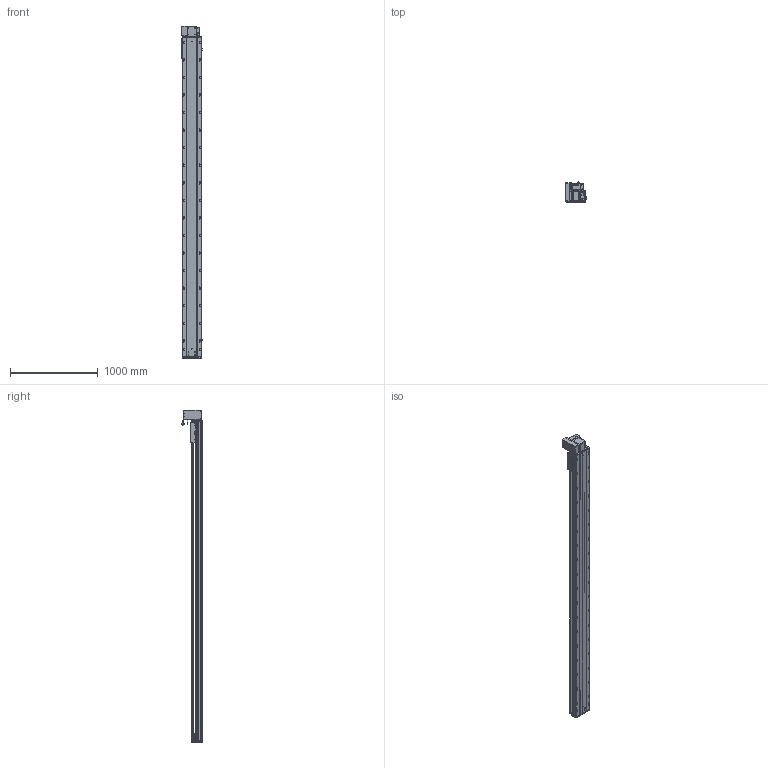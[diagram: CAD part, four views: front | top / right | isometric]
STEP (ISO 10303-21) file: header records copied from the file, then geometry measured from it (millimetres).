
FILE_DESCRIPTION (( 'STEP AP203' ), '1' );
FILE_NAME ('RY220-T-300-UL.SLDASM_3300.step', '2022-07-25T08:36:49', ( '' ), ( '' ), 'SwSTEP 2.0', 'SolidWorks 2016', '' );
FILE_SCHEMA (( 'CONFIG_CONTROL_DESIGN' ));
Length unit declared in the file: millimetre
Products named in the file (14): 110A-T-肮祭謫釱傷裔; RY220圉猾敕々湍臏賑輸; 怢湛750W_ECMA-CX0807ES; RY220-T-湍謫欶(鍼踢); RY220-同步轮副支撑座6304×2; 覜茼ん672; RY220翋肮祭謫裔啣; RY220-俋离672覜茼んえ; RY220翋肮祭謫釱; RY220-T-300-UL.SLDASM_3300; RY220-T-300-奻裔啣_3300; RY220-T菁釱-300_3300; RY220-T-蛌殏萇儂假蚾啣(750W); 滅袉蝶18-15
Assembly tree (18 placements, depth 2):
  RY220-T-300-UL.SLDASM_3300
    RY220-T菁釱-300_3300
    RY220翋肮祭謫釱
    覜茼ん672  x3
    RY220圉猾敕々湍臏賑輸
    RY220-T-300-奻裔啣_3300
    RY220-俋离672覜茼んえ
    滅袉蝶18-15  x3
    RY220翋肮祭謫裔啣  x2
    110A-T-肮祭謫釱傷裔
    怢湛750W_ECMA-CX0807ES
    RY220-T-湍謫欶(鍼踢)
    RY220-T-蛌殏萇儂假蚾啣(750W)
    RY220-同步轮副支撑座6304×2
Bounding box: 239.7 x 231.74 x 3780.5 mm (x, y, z)
Volume: 27143151.8 mm3; surface area: 8432319.8 mm2
Topology: 19 solids, 19 shells, 3096 faces, 8571 edges, 5354 vertices
Faces by surface type: cylinder 1544, plane 1069, cone 401, bspline 56, sphere 16, torus 10
Entity records: 103347 total; most frequent: CARTESIAN_POINT 29097, ORIENTED_EDGE 15322, DIRECTION 14860, EDGE_CURVE 7661, AXIS2_PLACEMENT_3D 5386, VERTEX_POINT 4978, VECTOR 4088, LINE 4088
